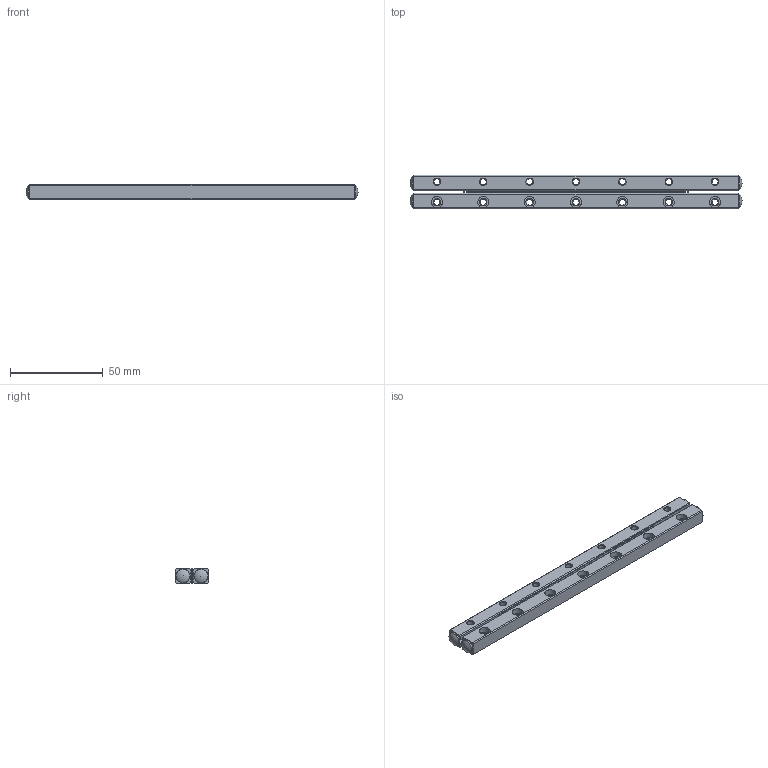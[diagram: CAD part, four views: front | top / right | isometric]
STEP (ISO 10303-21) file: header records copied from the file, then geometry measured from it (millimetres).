
FILE_DESCRIPTION(/* description */ ('Unknown'),/* implementation_level */ '2;1');
FILE_NAME(/* name */ 'VR3-175x24Z',/* time_stamp */ '2025-06-12T09:16:08+08:00',/* author */ ('Unknown'),/* organization */ ('Unknown'),/* preprocessor_version */ 'ST-DEVELOPER v18.102',/* originating_system */ 'Solid Edge',/* authorisation */ 'Unknown');
FILE_SCHEMA (('AUTOMOTIVE_DESIGN {1 0 10303 214 3 1 1}'));
Length unit declared in the file: millimetre
Products named in the file (4): VR3-175x24Z; VR3-175_24Z Roller guide; VR3-175_24Z Roller cage; VR3-175_24Z Roller guide; Top
Assembly tree (3 placements, depth 2):
  VR3-175x24Z
    VR3-175_24Z Roller guide
    VR3-175_24Z Roller cage
    VR3-175_24Z Roller guide; Top
Bounding box: 179 x 18 x 8 mm (x, y, z)
Volume: 21543.9 mm3; surface area: 15510.8 mm2
Topology: 3 solids, 3 shells, 382 faces, 1014 edges, 648 vertices
Faces by surface type: plane 246, cone 80, cylinder 52, torus 4
Full cylindrical faces by diameter (mm): 3 x24, 3.3 x14, 6 x14
Entity records: 11351 total; most frequent: DIRECTION 1926, CARTESIAN_POINT 1892, ORIENTED_EDGE 1732, EDGE_CURVE 866, AXIS2_PLACEMENT_3D 674, FACE_BOUND 656, EDGE_LOOP 652, VERTEX_POINT 640
